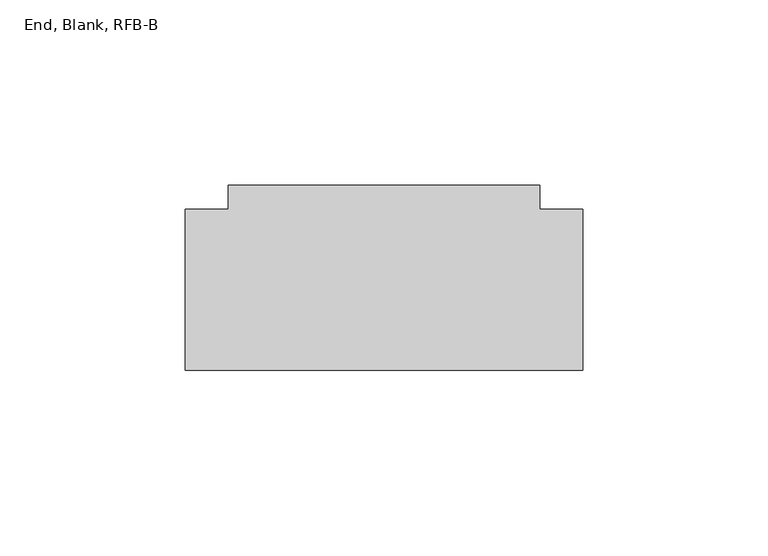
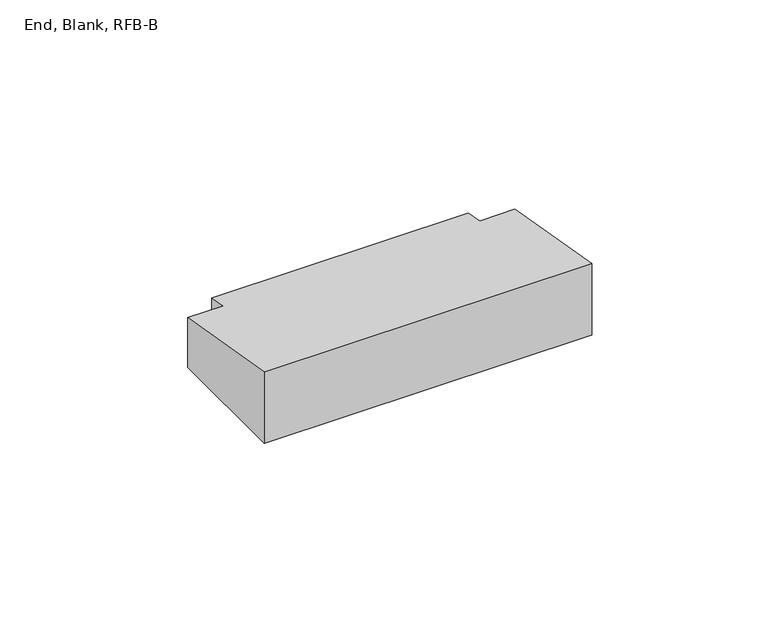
"""IFC4 building model written with IfcOpenShell, lengths in millimetres: proxy geometry, Device_Plate-Resource_Series-Wiremold-RFB4 : End, Blank, RFB-B."""

from ifc_helpers import new_model, si_unit, origin, place, context, project, spatial, faceted_brep, source, transform, mapped, element, save


def end_blank_rfb_b_42515b03(model_context):
    return source(origin(), model_context, "Body", "Brep", [
        faceted_brep([(53.5613154, -852.5341924, 24.7911285), (53.5613154, -852.5341924, 0.0), (53.5613154, -809.1001924, 0.0), (53.5613154, -809.1001924, 17.2354223), (-53.5613154, -852.5341924, 0.0), (-53.5613154, -852.5341924, 24.7911285), (-53.5613154, -809.1001924, 17.2354223), (-53.5613154, -809.1001924, 0.0), (41.9535154, -809.1001924, 17.2354223), (41.9535154, -802.7251118, 16.1264239), (-41.9535154, -802.7251118, 16.1264239), (-41.9535154, -809.1001924, 17.2354223), (-41.9535154, -809.1001924, 0.0), (-41.9535154, -802.7251118, 0.0), (41.9535154, -802.7251118, 0.0), (41.9535154, -809.1001924, 0.0)], [[[0, 1, 2, 3]], [[4, 5, 6, 7]], [[5, 0, 3, 8, 9, 10, 11, 6]], [[1, 0, 5, 4]], [[1, 4, 7, 12, 13, 14, 15, 2]], [[10, 9, 14, 13]], [[11, 12, 7, 6]], [[12, 11, 10, 13]], [[8, 15, 14, 9]], [[15, 8, 3, 2]]]),
    ])


if __name__ == "__main__":
    model = new_model("IFC4")
    model_context = context("Model", 3, world=origin())
    ifc_project = project(units=[si_unit("LENGTHUNIT", "METRE", prefix="MILLI")], contexts=[model_context])
    site = spatial("IfcSite", under=ifc_project)
    building = spatial("IfcBuilding", under=site)
    placement = place(None, origin())
    end_blank_rfb_b_shape = end_blank_rfb_b_42515b03(model_context)
    element("IfcBuildingElementProxy", 1, Name="Device_Plate-Resource_Series-Wiremold-RFB4 : End, Blank, RFB-B", ObjectType="Device_Plate-Resource_Series-Wiremold-RFB4 : End, Blank, RFB-B", at=placement, inside=building, context=model_context, shape_type="MappedRepresentation", body=[
        mapped(end_blank_rfb_b_shape, transform((0.0, 0.0, 0.0), x_axis=(1.0, 0.0, 0.0), y_axis=(0.0, 1.0, 0.0), z_axis=(0.0, 0.0, 1.0))),
    ])
    save(model, "model.ifc")
